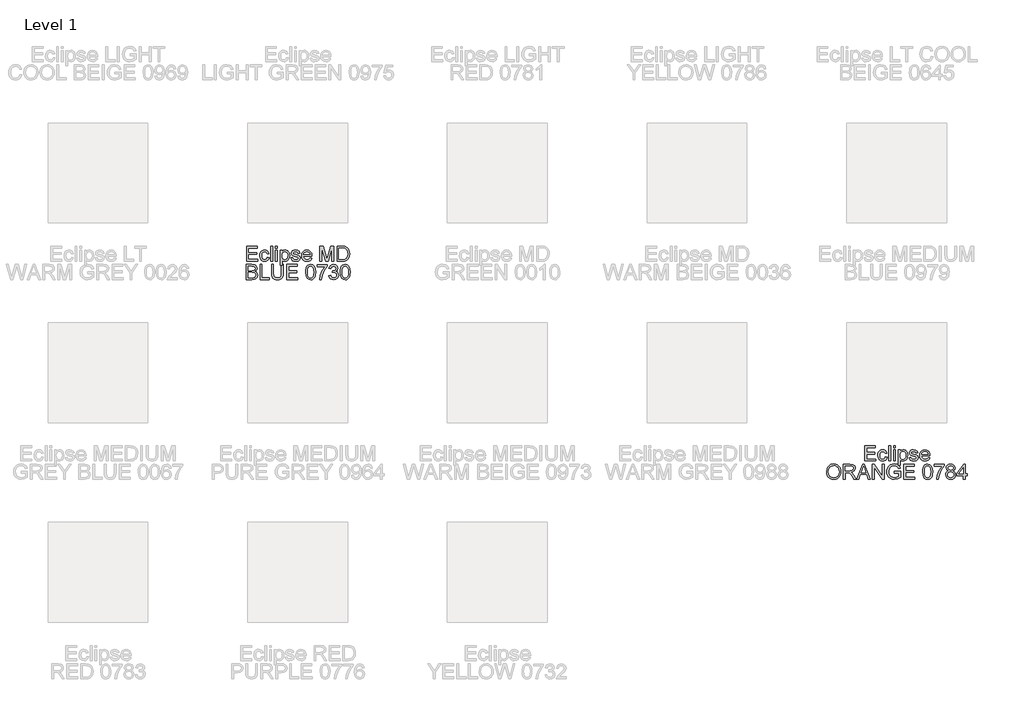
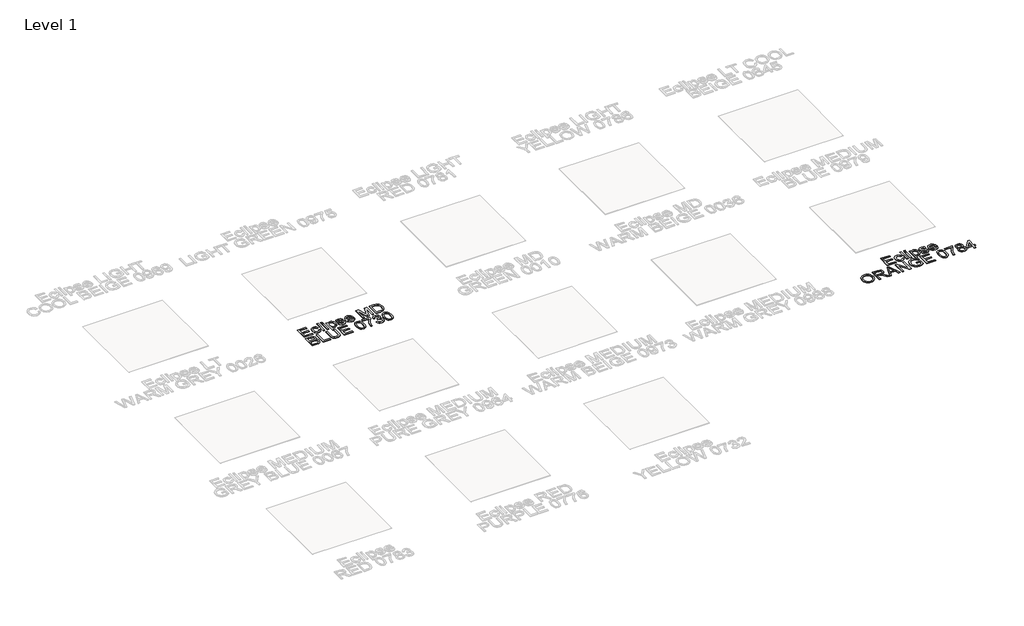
# One storey, part 6 of 13: 2 proxies.
"""IFC4 building model written with IfcOpenShell, lengths in millimetres."""

from ifc_helpers import new_model, si_unit, origin, origin_with_axes, place, context, project, spatial, polyline, outline, extrude, element, save

model = new_model("IFC4")

# Units and contexts
model_context = context("Model", 3, world=origin())
ifc_project = project(units=[si_unit("LENGTHUNIT", "METRE", prefix="MILLI")], contexts=[model_context])

# Site, building, storey
site = spatial("IfcSite", under=ifc_project)
building = spatial("IfcBuilding", under=site)
storey = spatial("IfcBuildingStorey", under=building, Name="Level 1", Elevation=0.0)

# Proxies
placement = place(None, origin())
element("IfcBuildingElementProxy", 1, Name="150mm Arial", ObjectType="150mm Arial", at=placement, inside=storey, context=model_context, shape_type="SweptSolid", body=[
    extrude(outline(polyline([(-446.0325806, -3362.9455422), (-446.0325806, -3212.261077), (-337.7281212, -3212.261077), (-337.7281212, -3231.0966352), (-427.1970224, -3231.0966352), (-427.1970224, -3275.8310858), (-342.4370108, -3275.8310858), (-342.4370108, -3294.6666439), (-427.1970224, -3294.6666439), (-427.1970224, -3344.1099841), (-335.3736764, -3344.1099841), (-335.3736764, -3362.9455422), (-446.0325806, -3362.9455422)])), origin_with_axes(), (0.0, 0.0, 1.0), 5.0),
    extrude(outline(polyline([(-238.8414409, -3322.9199812), (-220.0058828, -3325.2744259), (-225.2573982, -3342.0268523), (-235.1258328, -3354.6865914), (-248.6822843, -3362.6466381), (-264.9978508, -3365.299987), (-285.0336239, -3361.5981744), (-300.7007984, -3350.4927367), (-310.8129547, -3332.4711175), (-314.1836735, -3308.0207603), (-312.7443352, -3291.2591369), (-308.4263203, -3276.7323967), (-301.1606509, -3265.0015595), (-290.8783491, -3256.6276456), (-278.5772949, -3251.6060564), (-265.2553682, -3249.9321933), (-249.3398734, -3252.2314558), (-236.6157548, -3259.1292432), (-227.4876828, -3270.2576735), (-222.3603275, -3285.2488648), (-241.1958857, -3287.6033096), (-249.9330831, -3273.4950351), (-265.1082154, -3268.7677515), (-277.2805109, -3271.0946051), (-286.9420118, -3278.0751659), (-293.2465895, -3290.0865131), (-295.3481154, -3307.5057256), (-293.2925747, -3325.1594628), (-287.1259528, -3337.2121967), (-277.6391958, -3344.1513708), (-265.6232502, -3346.4644288), (-255.8697788, -3345.020492), (-247.8729439, -3340.6886815), (-242.0558098, -3333.3586328), (-238.8414409, -3322.9199812)])), origin_with_axes(), (0.0, 0.0, 1.0), 5.0),
    extrude(outline(polyline([(-203.5247694, -3362.9455422), (-203.5247694, -3212.261077), (-184.6892112, -3212.261077), (-184.6892112, -3362.9455422), (-203.5247694, -3362.9455422)])), origin_with_axes(), (0.0, 0.0, 1.0), 5.0),
    extrude(outline(polyline([(-156.435874, -3231.0966352), (-156.435874, -3212.261077), (-137.6003158, -3212.261077), (-137.6003158, -3231.0966352), (-156.435874, -3231.0966352)])), origin_with_axes(), (0.0, 0.0, 1.0), 5.0),
    extrude(outline(polyline([(-156.435874, -3362.9455422), (-156.435874, -3252.2866381), (-137.6003158, -3252.2866381), (-137.6003158, -3362.9455422), (-156.435874, -3362.9455422)])), origin_with_axes(), (0.0, 0.0, 1.0), 5.0),
    extrude(outline(polyline([(-109.3469786, -3405.3255481), (-109.3469786, -3252.2866381), (-90.5114205, -3252.2866381), (-90.5114205, -3270.7543142), (-77.4883978, -3255.1377235), (-59.9036385, -3249.9321933), (-47.1657244, -3251.7532092), (-36.028097, -3257.2162568), (-26.9598058, -3265.9902424), (-20.4299004, -3277.7440721), (-15.1691878, -3306.7699616), (-16.6545114, -3322.8785944), (-21.1104821, -3337.2857731), (-28.3945456, -3349.260332), (-38.3641476, -3358.0711058), (-49.9754231, -3363.4927667), (-62.1845068, -3365.299987), (-78.5736497, -3360.4623388), (-90.5114205, -3348.2302624), (-90.5114205, -3405.3255481), (-109.3469786, -3405.3255481)]), holes=[polyline([(-90.5114205, -3308.4990069), (-88.4742739, -3325.3847905), (-82.3628343, -3337.1938026), (-73.3451269, -3344.1467723), (-62.589177, -3346.4644288), (-51.6584832, -3344.0639988), (-42.4108496, -3336.8627088), (-36.1062719, -3324.6214354), (-34.004746, -3307.1010554), (-36.0556881, -3290.3072423), (-42.2085145, -3278.3326833), (-51.2124263, -3271.1589844), (-61.8166248, -3268.7677515), (-72.4622101, -3271.3107358), (-81.8110113, -3278.9396886), (-88.3363182, -3291.4154868), (-90.5114205, -3308.4990069)])]), origin_with_axes(), (0.0, 0.0, 1.0), 5.0),
    extrude(outline(polyline([(-1.0425192, -3329.9833155), (17.7930389, -3327.6288707), (20.763686, -3335.6854864), (26.5118422, -3341.6083865), (46.4878345, -3346.4644288), (65.6912747, -3342.0130567), (71.9452686, -3331.565208), (70.3725731, -3326.764348), (65.6544865, -3323.1039222), (46.2671053, -3317.732845), (17.9034035, -3308.517401), (5.5241744, -3297.7568527), (1.3119255, -3282.5633263), (4.6964399, -3268.5286282), (13.930278, -3257.804868), (25.9048369, -3252.2314558), (42.1100388, -3249.9321933), (65.0290871, -3253.6294074), (79.5972141, -3263.6357976), (86.0719372, -3280.5399753), (67.2363791, -3282.8944201), (60.1546507, -3272.5017537), (43.5815668, -3268.7677515), (25.555349, -3272.3362068), (20.1474837, -3280.6503399), (22.3915639, -3286.1317816), (29.41811, -3290.2888482), (45.641706, -3294.2987619), (73.2880379, -3303.164718), (86.1271195, -3313.2078965), (90.7808268, -3329.5786453), (85.3177791, -3347.604863), (69.5540356, -3360.683068), (46.2303171, -3365.299987), (27.2384091, -3363.0743009), (13.378455, -3356.3972427), (4.1262228, -3345.3423888), (-1.0425192, -3329.9833155)])), origin_with_axes(), (0.0, 0.0, 1.0), 5.0),
    extrude(outline(polyline([(189.4467779, -3329.9833155), (207.914454, -3332.3377602), (201.2603884, -3346.2528967), (190.6423944, -3356.6547601), (176.2995951, -3363.1386803), (158.4711139, -3365.299987), (136.370603, -3361.5705833), (119.3652578, -3350.3823721), (108.521936, -3332.4619204), (104.9074954, -3308.5357951), (108.5587242, -3283.804928), (119.5124106, -3265.3096607), (136.2878296, -3253.7765602), (157.4042561, -3249.9321933), (177.8630935, -3253.7673631), (194.2108497, -3265.2728725), (204.9300113, -3283.7313516), (208.5030652, -3308.4254305), (208.3927006, -3313.5022021), (123.7430535, -3313.5022021), (127.0034077, -3327.6012795), (134.5771783, -3337.9663548), (145.5078721, -3344.3399103), (158.8389959, -3346.4644288), (177.306672, -3342.5280915), (189.4467779, -3329.9833155)]), holes=[polyline([(123.7430535, -3294.6666439), (189.6675071, -3294.6666439), (187.1199243, -3284.715436), (182.1259262, -3277.5969193), (171.1446486, -3270.9750434), (157.3306797, -3268.7677515), (144.6341523, -3270.5289865), (134.1357199, -3275.8126917), (126.8378608, -3284.0486498), (123.7430535, -3294.6666439)])]), origin_with_axes(), (0.0, 0.0, 1.0), 5.0),
    extrude(outline(polyline([(288.5541874, -3362.9455422), (288.5541874, -3212.261077), (320.9645911, -3212.261077), (351.7931023, -3318.468609), (358.0103081, -3340.6518933), (364.7425486, -3316.629199), (395.056025, -3212.261077), (427.4664288, -3212.261077), (427.4664288, -3362.9455422), (408.6308706, -3362.9455422), (408.6308706, -3231.0966352), (370.7758133, -3362.9455422), (345.2448028, -3362.9455422), (307.3897455, -3231.0966352), (307.3897455, -3362.9455422), (288.5541874, -3362.9455422)])), origin_with_axes(), (0.0, 0.0, 1.0), 5.0),
    extrude(outline(polyline([(460.4286555, -3362.9455422), (460.4286555, -3212.261077), (512.4103814, -3212.261077), (539.3025553, -3214.4315808), (561.4490514, -3225.2105232), (571.8693089, -3236.6884415), (579.2913282, -3250.9622629), (583.7335033, -3267.756076), (585.2142283, -3286.7939692), (581.2043145, -3317.1994161), (570.9036187, -3339.1435771), (557.1448321, -3352.8103933), (539.1370084, -3360.3703683), (514.911979, -3362.9455422), (460.4286555, -3362.9455422)]), holes=[polyline([(479.2642137, -3344.1099841), (512.5943224, -3344.1099841), (536.8377459, -3341.3876573), (550.8172617, -3333.6989236), (562.2767859, -3314.9921242), (566.3786701, -3286.4996636), (564.3691147, -3265.9718483), (558.3404485, -3250.8151101), (549.4331057, -3240.4040496), (538.7875205, -3234.1132675), (512.0792876, -3231.0966352), (479.2642137, -3231.0966352), (479.2642137, -3344.1099841)])]), origin_with_axes(), (0.0, 0.0, 1.0), 5.0),
    extrude(outline(polyline([(-449.5642478, -3545.907769), (-449.5642478, -3395.2233038), (-392.0642919, -3395.2233038), (-363.9029252, -3399.6562818), (-354.4391608, -3405.2802778), (-347.274659, -3413.2863097), (-341.2597884, -3432.5633263), (-346.3181658, -3450.1664798), (-361.6036627, -3463.5022021), (-350.9304863, -3469.0756143), (-343.044016, -3477.5552943), (-338.1741781, -3488.380222), (-336.5508988, -3500.9893774), (-340.9838769, -3521.2412812), (-351.9651544, -3535.6622554), (-368.3542973, -3543.3142009), (-392.5057503, -3545.907769), (-449.5642478, -3545.907769)]), holes=[polyline([(-430.7286896, -3456.4388678), (-396.331723, -3456.4388678), (-376.2453661, -3454.820187), (-364.1604426, -3447.8488232), (-360.0953465, -3435.5799586), (-363.8845311, -3423.2927), (-374.7370499, -3416.0270306), (-398.9436852, -3414.0588619), (-430.7286896, -3414.0588619), (-430.7286896, -3456.4388678)]), polyline([(-430.7286896, -3527.0722108), (-392.1010801, -3527.0722108), (-378.1215643, -3526.3364469), (-366.2941581, -3522.2345626), (-358.4582716, -3513.8652472), (-355.386457, -3501.1733184), (-358.9917005, -3486.531615), (-370.6719539, -3477.7944176), (-393.9404901, -3475.2744259), (-430.7286896, -3475.2744259), (-430.7286896, -3527.0722108)])]), origin_with_axes(), (0.0, 0.0, 1.0), 5.0),
    extrude(outline(polyline([(-310.6520064, -3545.907769), (-310.6520064, -3395.2233038), (-291.8164482, -3395.2233038), (-291.8164482, -3527.0722108), (-216.4742156, -3527.0722108), (-216.4742156, -3545.907769), (-310.6520064, -3545.907769)])), origin_with_axes(), (0.0, 0.0, 1.0), 5.0),
    extrude(outline(polyline([(-96.3975324, -3395.2233038), (-77.5619742, -3395.2233038), (-77.5619742, -3482.1538192), (-78.8403642, -3502.5114891), (-82.675534, -3518.1878607), (-89.8400358, -3530.2819813), (-101.1064219, -3539.8928984), (-116.5022834, -3546.1698849), (-136.0552115, -3548.2622138), (-155.1804767, -3546.4411979), (-170.4705721, -3540.9781503), (-181.9300963, -3532.0616104), (-189.5636477, -3519.8801178), (-193.8540714, -3503.5415587), (-195.2842127, -3482.1538192), (-195.2842127, -3395.2233038), (-176.4486545, -3395.2233038), (-176.4486545, -3481.4916316), (-172.7330464, -3510.2048214), (-167.683866, -3518.3672031), (-159.9675411, -3524.4234605), (-137.821045, -3529.4266556), (-118.6635901, -3526.9526492), (-105.9256761, -3519.5306299), (-98.7795683, -3505.0728675), (-96.3975324, -3481.4916316), (-96.3975324, -3395.2233038)])), origin_with_axes(), (0.0, 0.0, 1.0), 5.0),
    extrude(outline(polyline([(-44.5997475, -3545.907769), (-44.5997475, -3395.2233038), (63.7047119, -3395.2233038), (63.7047119, -3414.0588619), (-25.7641893, -3414.0588619), (-25.7641893, -3458.7933125), (58.9958224, -3458.7933125), (58.9958224, -3477.6288707), (-25.7641893, -3477.6288707), (-25.7641893, -3527.0722108), (66.0591567, -3527.0722108), (66.0591567, -3545.907769), (-44.5997475, -3545.907769)])), origin_with_axes(), (0.0, 0.0, 1.0), 5.0),
    extrude(outline(polyline([(146.1102788, -3471.779547), (147.4944348, -3447.6602837), (151.6469029, -3428.4246538), (158.5262962, -3413.7783519), (168.0912281, -3403.4270723), (180.4106764, -3397.2742459), (195.553619, -3395.2233038), (217.5529623, -3400.0793461), (232.7464887, -3414.077256), (241.5756566, -3436.3709049), (244.9969591, -3471.779547), (243.6265987, -3495.7608545), (239.5155174, -3514.9504991), (232.6775108, -3529.6105966), (223.1263745, -3540.003263), (210.7793351, -3546.1974761), (195.553619, -3548.2622138), (175.9822968, -3544.6753643), (161.1198642, -3533.914816), (149.8626752, -3508.4297907), (146.1102788, -3471.779547)]), holes=[polyline([(164.945837, -3471.7427588), (167.153129, -3501.371055), (173.7750049, -3518.5189545), (183.6342423, -3526.6997303), (195.553619, -3529.4266556), (207.4729956, -3526.6905333), (217.3322331, -3518.4821663), (223.954109, -3501.3250697), (226.161401, -3471.7427588), (224.0276854, -3442.7812487), (217.6265387, -3425.499992), (207.7856953, -3416.9191444), (195.3328898, -3414.0588619), (183.5422718, -3416.5788536), (174.0693105, -3424.1388286), (167.2267054, -3442.4961402), (164.945837, -3471.7427588)])]), origin_with_axes(), (0.0, 0.0, 1.0), 5.0),
    extrude(outline(polyline([(261.4780725, -3416.4133067), (261.4780725, -3397.5777485), (360.3647528, -3397.5777485), (360.3647528, -3412.8080631), (332.3137507, -3453.3302649), (320.0034994, -3478.7922975), (310.8478363, -3504.9625029), (303.8580784, -3545.907769), (285.0225202, -3545.907769), (292.5089188, -3503.4173986), (301.2231236, -3478.9578444), (313.0551283, -3455.3904041), (341.5291947, -3416.4133067), (261.4780725, -3416.4133067)])), origin_with_axes(), (0.0, 0.0, 1.0), 5.0),
    extrude(outline(polyline([(376.8458662, -3505.8822079), (395.6814244, -3503.5277632), (399.8982717, -3515.3643663), (406.0740907, -3523.3566027), (414.512384, -3527.9091424), (425.5166542, -3529.4266556), (438.4293122, -3527.3389253), (448.3989143, -3521.0757343), (454.7724698, -3511.7315316), (456.8969884, -3500.4007662), (454.7908639, -3489.6448164), (448.4724907, -3480.9214145), (438.9075588, -3475.1410687), (427.0617586, -3473.2142868), (413.8547949, -3475.2744259), (415.9517223, -3456.4388678), (418.9683547, -3456.659597), (440.3422986, -3451.2517316), (447.4608152, -3444.3907324), (449.8336541, -3434.6234655), (448.1138057, -3426.4886748), (442.9542607, -3419.8897915), (435.0815861, -3415.5165943), (425.2223486, -3414.0588619), (415.344717, -3415.5303899), (407.2697072, -3419.9449738), (401.3743982, -3427.3026138), (398.0358691, -3437.6033096), (379.200311, -3435.2488648), (384.7461321, -3418.3354901), (394.6145666, -3405.7079406), (408.1158358, -3397.844463), (424.560161, -3395.2233038), (447.2768742, -3400.3920458), (463.1693764, -3414.5187144), (468.6692122, -3433.5198195), (463.4452879, -3450.8838496), (447.9942441, -3463.3550493), (459.784862, -3468.1191211), (468.5220594, -3476.2309191), (473.9299247, -3487.2489849), (475.7325465, -3500.73186), (472.127303, -3519.0891715), (461.3115723, -3534.4298507), (444.9868088, -3544.804123), (424.8544666, -3548.2622138), (406.6443078, -3545.3099608), (391.8186634, -3536.4532017), (381.5087705, -3522.9059472), (376.8458662, -3505.8822079)])), origin_with_axes(), (0.0, 0.0, 1.0), 5.0),
    extrude(outline(polyline([(492.2136599, -3471.779547), (493.5978159, -3447.6602837), (497.7502839, -3428.4246538), (504.6296772, -3413.7783519), (514.1946091, -3403.4270723), (526.5140574, -3397.2742459), (541.6570001, -3395.2233038), (563.6563434, -3400.0793461), (578.8498698, -3414.077256), (587.6790377, -3436.3709049), (591.1003402, -3471.779547), (589.7299798, -3495.7608545), (585.6188985, -3514.9504991), (578.7808919, -3529.6105966), (569.2297556, -3540.003263), (556.8827161, -3546.1974761), (541.6570001, -3548.2622138), (522.0856779, -3544.6753643), (507.2232453, -3533.914816), (495.9660563, -3508.4297907), (492.2136599, -3471.779547)]), holes=[polyline([(511.0492181, -3471.7427588), (513.25651, -3501.371055), (519.8783859, -3518.5189545), (529.7376234, -3526.6997303), (541.6570001, -3529.4266556), (553.5763767, -3526.6905333), (563.4356142, -3518.4821663), (570.0574901, -3501.3250697), (572.2647821, -3471.7427588), (570.1310665, -3442.7812487), (563.7299198, -3425.499992), (553.8890764, -3416.9191444), (541.4362709, -3414.0588619), (529.6456529, -3416.5788536), (520.1726915, -3424.1388286), (513.3300864, -3442.4961402), (511.0492181, -3471.7427588)])]), origin_with_axes(), (0.0, 0.0, 1.0), 5.0),
])
element("IfcBuildingElementProxy", 2, Name="150mm Arial", ObjectType="150mm Arial", at=placement, inside=storey, context=model_context, shape_type="SweptSolid", body=[
    extrude(outline(polyline([(5744.6774457, -5362.9455422), (5744.6774457, -5212.261077), (5852.9819051, -5212.261077), (5852.9819051, -5231.0966352), (5763.5130039, -5231.0966352), (5763.5130039, -5275.8310858), (5848.2730155, -5275.8310858), (5848.2730155, -5294.6666439), (5763.5130039, -5294.6666439), (5763.5130039, -5344.1099841), (5855.3363499, -5344.1099841), (5855.3363499, -5362.9455422), (5744.6774457, -5362.9455422)])), origin_with_axes(), (0.0, 0.0, 1.0), 5.0),
    extrude(outline(polyline([(5951.8685854, -5322.9199812), (5970.7041435, -5325.2744259), (5965.4526281, -5342.0268523), (5955.5841935, -5354.6865914), (5942.027742, -5362.6466381), (5925.7121755, -5365.299987), (5905.6764024, -5361.5981744), (5890.0092279, -5350.4927367), (5879.8970716, -5332.4711175), (5876.5263528, -5308.0207603), (5877.9656911, -5291.2591369), (5882.283706, -5276.7323967), (5889.5493754, -5265.0015595), (5899.8316772, -5256.6276456), (5912.1327314, -5251.6060564), (5925.4546581, -5249.9321933), (5941.3701529, -5252.2314558), (5954.0942715, -5259.1292432), (5963.2223435, -5270.2576735), (5968.3496988, -5285.2488648), (5949.5141406, -5287.6033096), (5940.7769432, -5273.4950351), (5925.6018109, -5268.7677515), (5913.4295154, -5271.0946051), (5903.7680145, -5278.0751659), (5897.4634368, -5290.0865131), (5895.3619109, -5307.5057256), (5897.4174516, -5325.1594628), (5903.5840735, -5337.2121967), (5913.0708305, -5344.1513708), (5925.0867761, -5346.4644288), (5934.8402475, -5345.020492), (5942.8370824, -5340.6886815), (5948.6542165, -5333.3586328), (5951.8685854, -5322.9199812)])), origin_with_axes(), (0.0, 0.0, 1.0), 5.0),
    extrude(outline(polyline([(5987.1852569, -5362.9455422), (5987.1852569, -5212.261077), (6006.0208151, -5212.261077), (6006.0208151, -5362.9455422), (5987.1852569, -5362.9455422)])), origin_with_axes(), (0.0, 0.0, 1.0), 5.0),
    extrude(outline(polyline([(6034.2741523, -5231.0966352), (6034.2741523, -5212.261077), (6053.1097105, -5212.261077), (6053.1097105, -5231.0966352), (6034.2741523, -5231.0966352)])), origin_with_axes(), (0.0, 0.0, 1.0), 5.0),
    extrude(outline(polyline([(6034.2741523, -5362.9455422), (6034.2741523, -5252.2866381), (6053.1097105, -5252.2866381), (6053.1097105, -5362.9455422), (6034.2741523, -5362.9455422)])), origin_with_axes(), (0.0, 0.0, 1.0), 5.0),
    extrude(outline(polyline([(6081.3630477, -5405.3255481), (6081.3630477, -5252.2866381), (6100.1986058, -5252.2866381), (6100.1986058, -5270.7543142), (6113.2216285, -5255.1377235), (6130.8063878, -5249.9321933), (6143.5443019, -5251.7532092), (6154.6819293, -5257.2162568), (6163.7502205, -5265.9902424), (6170.2801259, -5277.7440721), (6175.5408385, -5306.7699616), (6174.0555149, -5322.8785944), (6169.5995442, -5337.2857731), (6162.3154807, -5349.260332), (6152.3458787, -5358.0711058), (6140.7346032, -5363.4927667), (6128.5255195, -5365.299987), (6112.1363766, -5360.4623388), (6100.1986058, -5348.2302624), (6100.1986058, -5405.3255481), (6081.3630477, -5405.3255481)]), holes=[polyline([(6100.1986058, -5308.4990069), (6102.2357524, -5325.3847905), (6108.347192, -5337.1938026), (6117.3648994, -5344.1467723), (6128.1208493, -5346.4644288), (6139.0515431, -5344.0639988), (6148.2991767, -5336.8627088), (6154.6037544, -5324.6214354), (6156.7052803, -5307.1010554), (6154.6543382, -5290.3072423), (6148.5015118, -5278.3326833), (6139.4976, -5271.1589844), (6128.8934015, -5268.7677515), (6118.2478162, -5271.3107358), (6108.899015, -5278.9396886), (6102.3737081, -5291.4154868), (6100.1986058, -5308.4990069)])]), origin_with_axes(), (0.0, 0.0, 1.0), 5.0),
    extrude(outline(polyline([(6189.6675071, -5329.9833155), (6208.5030652, -5327.6288707), (6211.4737123, -5335.6854864), (6217.2218685, -5341.6083865), (6237.1978608, -5346.4644288), (6256.401301, -5342.0130567), (6262.6552949, -5331.565208), (6261.0825994, -5326.764348), (6256.3645128, -5323.1039222), (6236.9771316, -5317.732845), (6208.6134298, -5308.517401), (6196.2342007, -5297.7568527), (6192.0219518, -5282.5633263), (6195.4064662, -5268.5286282), (6204.6403043, -5257.804868), (6216.6148632, -5252.2314558), (6232.8200651, -5249.9321933), (6255.7391134, -5253.6294074), (6270.3072404, -5263.6357976), (6276.7819635, -5280.5399753), (6257.9464054, -5282.8944201), (6250.864677, -5272.5017537), (6234.2915931, -5268.7677515), (6216.2653753, -5272.3362068), (6210.85751, -5280.6503399), (6213.1015902, -5286.1317816), (6220.1281363, -5290.2888482), (6236.3517323, -5294.2987619), (6263.9980642, -5303.164718), (6276.8371458, -5313.2078965), (6281.4908531, -5329.5786453), (6276.0278054, -5347.604863), (6260.2640619, -5360.683068), (6236.9403434, -5365.299987), (6217.9484354, -5363.0743009), (6204.0884813, -5356.3972427), (6194.8362491, -5345.3423888), (6189.6675071, -5329.9833155)])), origin_with_axes(), (0.0, 0.0, 1.0), 5.0),
    extrude(outline(polyline([(6380.1568042, -5329.9833155), (6398.6244803, -5332.3377602), (6391.9704147, -5346.2528967), (6381.3524207, -5356.6547601), (6367.0096214, -5363.1386803), (6349.1811402, -5365.299987), (6327.0806293, -5361.5705833), (6310.0752841, -5350.3823721), (6299.2319623, -5332.4619204), (6295.6175217, -5308.5357951), (6299.2687505, -5283.804928), (6310.2224369, -5265.3096607), (6326.9978559, -5253.7765602), (6348.1142824, -5249.9321933), (6368.5731198, -5253.7673631), (6384.920876, -5265.2728725), (6395.6400376, -5283.7313516), (6399.2130915, -5308.4254305), (6399.1027269, -5313.5022021), (6314.4530798, -5313.5022021), (6317.713434, -5327.6012795), (6325.2872046, -5337.9663548), (6336.2178984, -5344.3399103), (6349.5490222, -5346.4644288), (6368.0166983, -5342.5280915), (6380.1568042, -5329.9833155)]), holes=[polyline([(6314.4530798, -5294.6666439), (6380.3775334, -5294.6666439), (6377.8299506, -5284.715436), (6372.8359525, -5277.5969193), (6361.8546749, -5270.9750434), (6348.040706, -5268.7677515), (6335.3441786, -5270.5289865), (6324.8457462, -5275.8126917), (6317.5478871, -5284.0486498), (6314.4530798, -5294.6666439)])]), origin_with_axes(), (0.0, 0.0, 1.0), 5.0),
    extrude(outline(polyline([(5363.2573931, -5472.5520992), (5368.2789823, -5439.2311874), (5374.5559689, -5425.6126558), (5383.34375, -5414.0220737), (5406.3455718, -5398.1571627), (5435.1783232, -5392.868859), (5454.9427834, -5395.3520625), (5472.6654985, -5402.8016729), (5487.3807783, -5414.6934584), (5498.1229325, -5430.5031871), (5504.6896261, -5449.467504), (5506.878524, -5470.8230538), (5504.574663, -5492.4637121), (5497.66308, -5511.6947434), (5486.5254526, -5527.5320633), (5471.5434584, -5538.9915875), (5453.9724946, -5545.9445572), (5435.0679586, -5548.2622138), (5414.9999957, -5545.7008354), (5397.1761131, -5538.0167002), (5382.4976215, -5525.9041855), (5371.8658318, -5510.0576686), (5365.4095028, -5491.8245172), (5363.2573931, -5472.5520992)]), holes=[polyline([(5382.0929513, -5472.7360402), (5385.8591432, -5496.308079), (5397.157719, -5514.2699174), (5414.1400716, -5525.6374711), (5434.957594, -5529.4266556), (5456.078619, -5525.6006829), (5473.0885628, -5514.1227646), (5484.3043651, -5495.6091032), (5488.0429659, -5470.675901), (5486.4426792, -5454.0016496), (5481.6418192, -5439.5898724), (5473.7645459, -5427.803853), (5462.9350197, -5419.0068748), (5449.8706103, -5413.5300316), (5435.2886878, -5411.7044172), (5415.0275869, -5415.2222887), (5397.8015125, -5425.7759035), (5386.0200916, -5444.5516808), (5382.0929513, -5472.7360402)])]), origin_with_axes(), (0.0, 0.0, 1.0), 5.0),
    extrude(outline(polyline([(5532.7774165, -5545.907769), (5532.7774165, -5395.2233038), (5597.7085886, -5395.2233038), (5627.8565181, -5399.2883998), (5637.1363415, -5404.9169943), (5644.3376315, -5413.6725858), (5648.9591491, -5424.5297032), (5650.4996549, -5436.4628754), (5647.9474736, -5451.3069139), (5640.2909296, -5463.6125667), (5627.3000966, -5472.6348726), (5608.7450485, -5477.6288707), (5619.4504145, -5485.6854864), (5634.7175173, -5505.0728675), (5659.8438576, -5545.907769), (5637.9548789, -5545.907769), (5618.3467686, -5514.6745876), (5604.1833117, -5493.9996195), (5594.2321038, -5484.2323525), (5585.2741772, -5480.6455031), (5574.3480819, -5479.9833155), (5551.6129746, -5479.9833155), (5551.6129746, -5545.907769), (5532.7774165, -5545.907769)]), holes=[polyline([(5551.6129746, -5461.1477573), (5593.7722513, -5461.1477573), (5615.2749539, -5458.4806128), (5627.4886361, -5449.9457506), (5631.6640968, -5437.1618512), (5629.6729355, -5427.9739984), (5623.6994516, -5420.5703732), (5613.4217483, -5415.6867398), (5598.517929, -5414.0588619), (5551.6129746, -5414.0588619), (5551.6129746, -5461.1477573)])]), origin_with_axes(), (0.0, 0.0, 1.0), 5.0),
    extrude(outline(polyline([(5665.9139105, -5545.907769), (5726.0626167, -5395.2233038), (5742.1022717, -5395.2233038), (5802.2509779, -5545.907769), (5782.348562, -5545.907769), (5765.0948964, -5498.8188736), (5703.0332038, -5498.8188736), (5685.8163265, -5545.907769), (5665.9139105, -5545.907769)]), holes=[polyline([(5709.9493854, -5479.9833155), (5758.2155031, -5479.9833155), (5744.6406575, -5442.9375985), (5734.0824442, -5414.0588619), (5724.7014534, -5439.700237), (5709.9493854, -5479.9833155)])]), origin_with_axes(), (0.0, 0.0, 1.0), 5.0),
    extrude(outline(polyline([(5822.3741231, -5545.907769), (5822.3741231, -5395.2233038), (5842.5340564, -5395.2233038), (5921.2608034, -5514.6010112), (5921.2608034, -5395.2233038), (5940.0963615, -5395.2233038), (5940.0963615, -5545.907769), (5919.9364282, -5545.907769), (5841.2096812, -5426.4932734), (5841.2096812, -5545.907769), (5822.3741231, -5545.907769)])), origin_with_axes(), (0.0, 0.0, 1.0), 5.0),
    extrude(outline(polyline([(6043.6919314, -5487.0466498), (6043.6919314, -5468.2110916), (6104.9074954, -5468.2110916), (6104.9074954, -5524.5338251), (6074.6859895, -5542.3025254), (6042.7354382, -5548.2622138), (6021.6052161, -5545.8939734), (6002.507542, -5538.7892524), (5986.642631, -5527.196371), (5975.210698, -5511.3636497), (5968.299115, -5492.3717416), (5965.995254, -5471.3013004), (5968.2899179, -5450.0791078), (5975.1739098, -5430.3376402), (5986.362121, -5413.7783519), (6001.5694429, -5402.1026971), (6020.0923014, -5395.1773185), (6041.227122, -5392.868859), (6070.6944698, -5398.221542), (6082.443701, -5404.6226887), (6091.3510439, -5413.1207628), (6102.7369916, -5438.044768), (6085.3729614, -5442.9375985), (6076.7829168, -5425.5183861), (6062.1044252, -5415.4752076), (6040.9328164, -5411.7044172), (6016.8181516, -5415.7695132), (6000.4106146, -5426.4380911), (5990.7169241, -5440.9510358), (5984.8308122, -5470.5287482), (5986.6012443, -5488.5411704), (5991.9125406, -5503.3622163), (6000.6037527, -5514.8861198), (6012.5139323, -5523.0071148), (6026.4520614, -5527.8217704), (6041.227122, -5529.4266556), (6066.9972558, -5524.5890074), (6086.0719372, -5514.2699174), (6086.0719372, -5487.0466498), (6043.6919314, -5487.0466498)])), origin_with_axes(), (0.0, 0.0, 1.0), 5.0),
    extrude(outline(polyline([(6135.5152774, -5545.907769), (6135.5152774, -5395.2233038), (6243.8197368, -5395.2233038), (6243.8197368, -5414.0588619), (6154.3508355, -5414.0588619), (6154.3508355, -5458.7933125), (6239.1108472, -5458.7933125), (6239.1108472, -5477.6288707), (6154.3508355, -5477.6288707), (6154.3508355, -5527.0722108), (6246.1741815, -5527.0722108), (6246.1741815, -5545.907769), (6135.5152774, -5545.907769)])), origin_with_axes(), (0.0, 0.0, 1.0), 5.0),
    extrude(outline(polyline([(6326.2253037, -5471.779547), (6327.6094597, -5447.6602837), (6331.7619277, -5428.4246538), (6338.641321, -5413.7783519), (6348.2062529, -5403.4270723), (6360.5257012, -5397.2742459), (6375.6686438, -5395.2233038), (6397.6679871, -5400.0793461), (6412.8615135, -5414.077256), (6421.6906814, -5436.3709049), (6425.111984, -5471.779547), (6423.7416235, -5495.7608545), (6419.6305423, -5514.9504991), (6412.7925357, -5529.6105966), (6403.2413994, -5540.003263), (6390.8943599, -5546.1974761), (6375.6686438, -5548.2622138), (6356.0973217, -5544.6753643), (6341.2348891, -5533.914816), (6329.9777, -5508.4297907), (6326.2253037, -5471.779547)]), holes=[polyline([(6345.0608618, -5471.7427588), (6347.2681538, -5501.371055), (6353.8900297, -5518.5189545), (6363.7492672, -5526.6997303), (6375.6686438, -5529.4266556), (6387.5880205, -5526.6905333), (6397.4472579, -5518.4821663), (6404.0691339, -5501.3250697), (6406.2764258, -5471.7427588), (6404.1427103, -5442.7812487), (6397.7415635, -5425.499992), (6387.9007202, -5416.9191444), (6375.4479146, -5414.0588619), (6363.6572967, -5416.5788536), (6354.1843353, -5424.1388286), (6347.3417302, -5442.4961402), (6345.0608618, -5471.7427588)])]), origin_with_axes(), (0.0, 0.0, 1.0), 5.0),
    extrude(outline(polyline([(6441.5930974, -5416.4133067), (6441.5930974, -5397.5777485), (6540.4797777, -5397.5777485), (6540.4797777, -5412.8080631), (6512.4287755, -5453.3302649), (6500.1185243, -5478.7922975), (6490.9628611, -5504.9625029), (6483.9731032, -5545.907769), (6465.1375451, -5545.907769), (6472.6239437, -5503.4173986), (6481.3381484, -5478.9578444), (6493.1701531, -5455.3904041), (6521.6442195, -5416.4133067), (6441.5930974, -5416.4133067)])), origin_with_axes(), (0.0, 0.0, 1.0), 5.0),
    extrude(outline(polyline([(6584.4048879, -5462.9135909), (6567.2431928, -5451.2149434), (6561.6697806, -5433.0047847), (6564.7048071, -5418.2803078), (6573.8098864, -5406.1126108), (6587.9641462, -5397.9456305), (6606.1467138, -5395.2233038), (6624.439646, -5398.0100099), (6638.7778468, -5406.3701282), (6648.0484731, -5418.7309633), (6651.1386818, -5433.5198195), (6645.638846, -5451.2701257), (6628.9553975, -5462.9135909), (6640.5482789, -5468.8870748), (6648.9865721, -5477.684053), (6654.1323216, -5488.8814612), (6655.8475714, -5502.0562352), (6652.4446629, -5520.0640588), (6642.2359375, -5534.9448855), (6626.472194, -5544.9328817), (6606.4042312, -5548.2622138), (6586.3362684, -5544.9190861), (6570.5725249, -5534.8897032), (6560.3637995, -5519.8663223), (6556.9608911, -5501.5412004), (6558.7451187, -5487.8559902), (6564.0978018, -5476.5988011), (6572.7430286, -5468.1559093), (6584.4048879, -5462.9135909)]), holes=[polyline([(6580.5053387, -5433.5566077), (6582.1746033, -5441.7787703), (6587.182397, -5448.3454639), (6595.3815669, -5452.6496832), (6606.6249604, -5454.084423), (6617.606238, -5452.6588803), (6625.6812478, -5448.3822521), (6630.6476547, -5442.0362877), (6632.3031237, -5434.4027363), (6630.5924724, -5426.4794778), (6625.4605186, -5419.9265797), (6617.2751442, -5415.5257914), (6606.4042312, -5414.0588619), (6595.4643404, -5415.4936017), (6587.2927616, -5419.7978211), (6582.2021944, -5426.1069973), (6580.5053387, -5433.5566077)]), polyline([(6575.7964492, -5500.8790128), (6578.9418403, -5515.0608637), (6590.0702706, -5525.6742593), (6606.551384, -5529.4266556), (6619.3720715, -5527.4538884), (6628.9921857, -5521.5355868), (6635.0070563, -5512.5730617), (6637.0120132, -5501.467624), (6634.942677, -5490.1736467), (6628.7346683, -5481.013385), (6618.8938249, -5474.9433321), (6605.9259846, -5472.9199812), (6593.2846396, -5474.915741), (6583.7610944, -5480.9030204), (6577.7876105, -5489.8885382), (6575.7964492, -5500.8790128)])]), origin_with_axes(), (0.0, 0.0, 1.0), 5.0),
    extrude(outline(polyline([(6733.5442487, -5545.907769), (6733.5442487, -5510.5910975), (6665.2653504, -5510.5910975), (6665.2653504, -5491.7555393), (6738.2531383, -5397.5777485), (6752.3798069, -5397.5777485), (6752.3798069, -5491.7555393), (6771.215365, -5491.7555393), (6771.215365, -5510.5910975), (6752.3798069, -5510.5910975), (6752.3798069, -5545.907769), (6733.5442487, -5545.907769)]), holes=[polyline([(6733.5442487, -5491.7555393), (6733.5442487, -5433.5566077), (6688.4419161, -5491.7555393), (6733.5442487, -5491.7555393)])]), origin_with_axes(), (0.0, 0.0, 1.0), 5.0),
])

save(model, "model.ifc")
